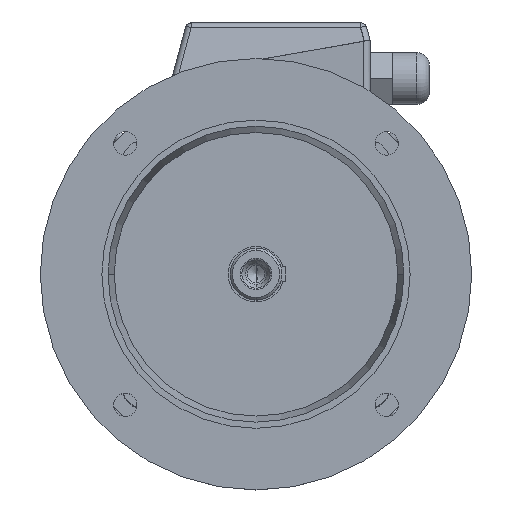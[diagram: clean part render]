
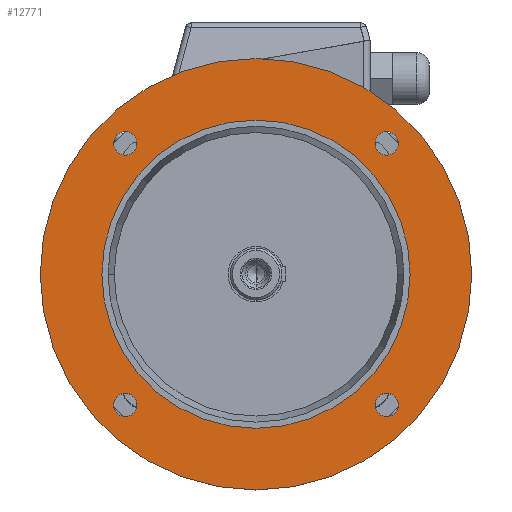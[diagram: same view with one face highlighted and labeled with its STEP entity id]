
A CAD part, top view. The second image highlights one B-rep face of the part: STEP entity #12771.
In plain terms, the highlighted planar face has unit normal (0, 0, 1).
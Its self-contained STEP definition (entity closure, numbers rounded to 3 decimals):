
#17308 = CARTESIAN_POINT ( 'NONE',  ( -175., 0., 75. ) ) ;
#1007 = CARTESIAN_POINT ( 'NONE',  ( 96.566, -106.066, 75. ) ) ;
#1102 = EDGE_LOOP ( 'NONE', ( #12001, #11848 ) ) ;
#1382 = ORIENTED_EDGE ( 'NONE', *, *, #14901, .F. ) ;
#18051 = VERTEX_POINT ( 'NONE', #11043 ) ;
#18309 = VERTEX_POINT ( 'NONE', #11311 ) ;
#18578 = EDGE_CURVE ( 'NONE', #18309, #18051, #11530, .T. ) ;
#2469 = CARTESIAN_POINT ( 'NONE',  ( 115.566, -106.066, 75. ) ) ;
#2703 = CIRCLE ( 'NONE', #2704, 9.5 ) ;
#2704 = AXIS2_PLACEMENT_3D ( 'NONE', #2705, #2714, #2715 ) ;
#2705 = CARTESIAN_POINT ( 'NONE',  ( 106.066, -106.066, 75. ) ) ;
#2714 = DIRECTION ( 'NONE',  ( 0., 0., 1. ) ) ;
#2715 = DIRECTION ( 'NONE',  ( 1., 0., 0. ) ) ;
#3334 = CIRCLE ( 'NONE', #3335, 125. ) ;
#3335 = AXIS2_PLACEMENT_3D ( 'NONE', #3336, #3337, #3338 ) ;
#3336 = CARTESIAN_POINT ( 'NONE',  ( 0., 0., 75. ) ) ;
#3337 = DIRECTION ( 'NONE',  ( 0., 0., 1. ) ) ;
#3338 = DIRECTION ( 'NONE',  ( 1., 0., 0. ) ) ;
#4301 = CARTESIAN_POINT ( 'NONE',  ( 115.566, 106.066, 75. ) ) ;
#4398 = VERTEX_POINT ( 'NONE', #16039 ) ;
#4416 = CIRCLE ( 'NONE', #4417, 9.5 ) ;
#4417 = AXIS2_PLACEMENT_3D ( 'NONE', #4418, #4419, #4420 ) ;
#4418 = CARTESIAN_POINT ( 'NONE',  ( 106.066, 106.066, 75. ) ) ;
#4419 = DIRECTION ( 'NONE',  ( 0., 0., 1. ) ) ;
#4420 = DIRECTION ( 'NONE',  ( 1., 0., 0. ) ) ;
#4671 = EDGE_CURVE ( 'NONE', #4398, #5721, #16371, .T. ) ;
#4853 = CARTESIAN_POINT ( 'NONE',  ( -96.566, 106.066, 75. ) ) ;
#4903 = CARTESIAN_POINT ( 'NONE',  ( -115.566, -106.066, 75. ) ) ;
#5049 = CIRCLE ( 'NONE', #5050, 9.5 ) ;
#5050 = AXIS2_PLACEMENT_3D ( 'NONE', #5051, #5052, #5053 ) ;
#5051 = CARTESIAN_POINT ( 'NONE',  ( -106.066, 106.066, 75. ) ) ;
#5052 = DIRECTION ( 'NONE',  ( 0., 0., 1. ) ) ;
#5053 = DIRECTION ( 'NONE',  ( 1., 0., 0. ) ) ;
#5086 = CIRCLE ( 'NONE', #5087, 9.5 ) ;
#5087 = AXIS2_PLACEMENT_3D ( 'NONE', #5088, #5089, #5090 ) ;
#5088 = CARTESIAN_POINT ( 'NONE',  ( -106.066, 106.066, 75. ) ) ;
#5089 = DIRECTION ( 'NONE',  ( 0., 0., 1. ) ) ;
#5090 = DIRECTION ( 'NONE',  ( 1., 0., 0. ) ) ;
#5326 = CIRCLE ( 'NONE', #5327, 9.5 ) ;
#5327 = AXIS2_PLACEMENT_3D ( 'NONE', #5328, #5329, #5330 ) ;
#5328 = CARTESIAN_POINT ( 'NONE',  ( 106.066, 106.066, 75. ) ) ;
#5329 = DIRECTION ( 'NONE',  ( 0., 0., 1. ) ) ;
#5330 = DIRECTION ( 'NONE',  ( 1., 0., 0. ) ) ;
#5721 = VERTEX_POINT ( 'NONE', #17308 ) ;
#6009 = CARTESIAN_POINT ( 'NONE',  ( -115.566, 106.066, 75. ) ) ;
#6358 = FACE_BOUND ( 'NONE', #12706, .T. ) ;
#6359 = FACE_BOUND ( 'NONE', #9994, .T. ) ;
#6360 = FACE_BOUND ( 'NONE', #1102, .T. ) ;
#6361 = FACE_OUTER_BOUND ( 'NONE', #11604, .T. ) ;
#6362 = FACE_BOUND ( 'NONE', #13584, .T. ) ;
#6363 = FACE_BOUND ( 'NONE', #12637, .T. ) ;
#6371 = PLANE ( 'NONE',  #6372 ) ;
#6372 = AXIS2_PLACEMENT_3D ( 'NONE', #6373, #6374, #6375 ) ;
#6373 = CARTESIAN_POINT ( 'NONE',  ( 0., 175., 75. ) ) ;
#6374 = DIRECTION ( 'NONE',  ( 0., 0., -1. ) ) ;
#6375 = DIRECTION ( 'NONE',  ( -1., 0., 0. ) ) ;
#6606 = CIRCLE ( 'NONE', #6607, 9.5 ) ;
#6607 = AXIS2_PLACEMENT_3D ( 'NONE', #6608, #6609, #6614 ) ;
#6608 = CARTESIAN_POINT ( 'NONE',  ( 106.066, -106.066, 75. ) ) ;
#6609 = DIRECTION ( 'NONE',  ( 0., 0., 1. ) ) ;
#6614 = DIRECTION ( 'NONE',  ( 1., 0., 0. ) ) ;
#7491 = CARTESIAN_POINT ( 'NONE',  ( 96.566, 106.066, 75. ) ) ;
#7838 = CIRCLE ( 'NONE', #7839, 175. ) ;
#7839 = AXIS2_PLACEMENT_3D ( 'NONE', #7840, #7841, #7842 ) ;
#7840 = CARTESIAN_POINT ( 'NONE',  ( 0., 0., 75. ) ) ;
#7841 = DIRECTION ( 'NONE',  ( 0., 0., 1. ) ) ;
#7842 = DIRECTION ( 'NONE',  ( 1., 0., 0. ) ) ;
#7907 = CIRCLE ( 'NONE', #7908, 9.5 ) ;
#7908 = AXIS2_PLACEMENT_3D ( 'NONE', #7909, #7910, #7911 ) ;
#7909 = CARTESIAN_POINT ( 'NONE',  ( -106.066, -106.066, 75. ) ) ;
#7910 = DIRECTION ( 'NONE',  ( 0., 0., 1. ) ) ;
#7911 = DIRECTION ( 'NONE',  ( 1., 0., 0. ) ) ;
#8342 = CARTESIAN_POINT ( 'NONE',  ( -96.566, -106.066, 75. ) ) ;
#8469 = CIRCLE ( 'NONE', #8470, 9.5 ) ;
#8470 = AXIS2_PLACEMENT_3D ( 'NONE', #8471, #8472, #8473 ) ;
#8471 = CARTESIAN_POINT ( 'NONE',  ( -106.066, -106.066, 75. ) ) ;
#8472 = DIRECTION ( 'NONE',  ( 0., 0., 1. ) ) ;
#8473 = DIRECTION ( 'NONE',  ( 1., 0., 0. ) ) ;
#8590 = VERTEX_POINT ( 'NONE', #1007 ) ;
#9994 = EDGE_LOOP ( 'NONE', ( #14362, #1382 ) ) ;
#10368 = ORIENTED_EDGE ( 'NONE', *, *, #12147, .F. ) ;
#10959 = VERTEX_POINT ( 'NONE', #2469 ) ;
#11043 = CARTESIAN_POINT ( 'NONE',  ( -125., 0., 75. ) ) ;
#11217 = EDGE_CURVE ( 'NONE', #8590, #10959, #2703, .T. ) ;
#11311 = CARTESIAN_POINT ( 'NONE',  ( 125., 0., 75. ) ) ;
#11530 = CIRCLE ( 'NONE', #11531, 125. ) ;
#11531 = AXIS2_PLACEMENT_3D ( 'NONE', #11532, #11533, #11534 ) ;
#11532 = CARTESIAN_POINT ( 'NONE',  ( 0., 0., 75. ) ) ;
#11533 = DIRECTION ( 'NONE',  ( 0., 0., 1. ) ) ;
#11534 = DIRECTION ( 'NONE',  ( 1., 0., 0. ) ) ;
#11604 = EDGE_LOOP ( 'NONE', ( #14868, #14297 ) ) ;
#11727 = EDGE_CURVE ( 'NONE', #18051, #18309, #3334, .T. ) ;
#11848 = ORIENTED_EDGE ( 'NONE', *, *, #11727, .F. ) ;
#12001 = ORIENTED_EDGE ( 'NONE', *, *, #18578, .F. ) ;
#12094 = VERTEX_POINT ( 'NONE', #4301 ) ;
#12147 = EDGE_CURVE ( 'NONE', #13555, #12094, #4416, .T. ) ;
#12188 = ORIENTED_EDGE ( 'NONE', *, *, #12382, .F. ) ;
#12306 = VERTEX_POINT ( 'NONE', #4853 ) ;
#12312 = VERTEX_POINT ( 'NONE', #4903 ) ;
#12367 = EDGE_CURVE ( 'NONE', #12306, #12653, #5049, .T. ) ;
#12382 = EDGE_CURVE ( 'NONE', #12653, #12306, #5086, .T. ) ;
#12426 = EDGE_CURVE ( 'NONE', #12094, #13555, #5326, .T. ) ;
#12482 = ORIENTED_EDGE ( 'NONE', *, *, #12367, .F. ) ;
#12543 = ORIENTED_EDGE ( 'NONE', *, *, #12426, .F. ) ;
#12637 = EDGE_LOOP ( 'NONE', ( #12482, #12188 ) ) ;
#12653 = VERTEX_POINT ( 'NONE', #6009 ) ;
#12706 = EDGE_LOOP ( 'NONE', ( #12543, #10368 ) ) ;
#12717 = ORIENTED_EDGE ( 'NONE', *, *, #11217, .F. ) ;
#12771 = ADVANCED_FACE ( 'NONE', ( #6358, #6359, #6360, #6361, #6362, #6363 ), #6371, .F. ) ;
#12861 = EDGE_CURVE ( 'NONE', #10959, #8590, #6606, .T. ) ;
#12982 = ORIENTED_EDGE ( 'NONE', *, *, #12861, .F. ) ;
#13555 = VERTEX_POINT ( 'NONE', #7491 ) ;
#13584 = EDGE_LOOP ( 'NONE', ( #12982, #12717 ) ) ;
#13858 = EDGE_CURVE ( 'NONE', #5721, #4398, #7838, .T. ) ;
#13923 = EDGE_CURVE ( 'NONE', #14652, #12312, #7907, .T. ) ;
#14297 = ORIENTED_EDGE ( 'NONE', *, *, #13858, .T. ) ;
#14362 = ORIENTED_EDGE ( 'NONE', *, *, #13923, .F. ) ;
#14652 = VERTEX_POINT ( 'NONE', #8342 ) ;
#14868 = ORIENTED_EDGE ( 'NONE', *, *, #4671, .T. ) ;
#14901 = EDGE_CURVE ( 'NONE', #12312, #14652, #8469, .T. ) ;
#16039 = CARTESIAN_POINT ( 'NONE',  ( 175., 0., 75. ) ) ;
#16371 = CIRCLE ( 'NONE', #16372, 175. ) ;
#16372 = AXIS2_PLACEMENT_3D ( 'NONE', #16373, #16374, #16375 ) ;
#16373 = CARTESIAN_POINT ( 'NONE',  ( 0., 0., 75. ) ) ;
#16374 = DIRECTION ( 'NONE',  ( 0., 0., 1. ) ) ;
#16375 = DIRECTION ( 'NONE',  ( 1., 0., 0. ) ) ;
